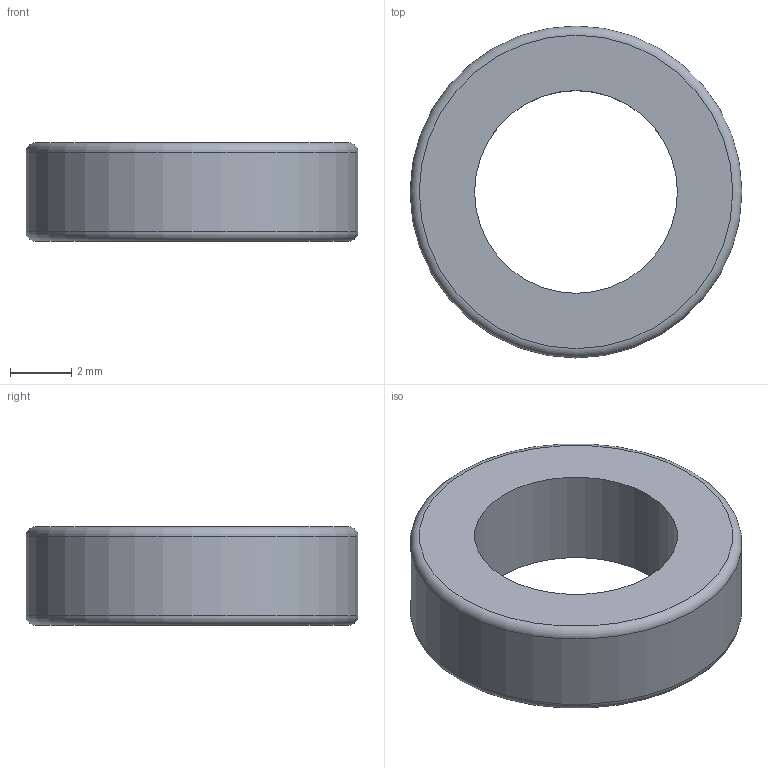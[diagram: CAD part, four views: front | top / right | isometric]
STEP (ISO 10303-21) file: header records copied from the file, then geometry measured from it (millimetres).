
FILE_DESCRIPTION(('Open CASCADE Model'),'2;1');
FILE_NAME('Open CASCADE Shape Model','2026-10-09T16:33:01',('Author'),( 'Open CASCADE'),'Open CASCADE STEP processor 8.0','build123d', 'Unknown');
FILE_SCHEMA(('AUTOMOTIVE_DESIGN { 1 0 10303 214 1 1 1 1 }'));
Length unit declared in the file: millimetre
Products named in the file (1): COMPOUND
Bounding box: 10.8 x 10.8 x 3.2 mm (x, y, z)
Volume: 182.4 mm3; surface area: 280.9 mm2
Topology: 1 solids, 1 shells, 6 faces, 10 edges, 6 vertices
Faces by surface type: cylinder 2, plane 2, torus 2
Full cylindrical faces by diameter (mm): 6.6 x1, 10.8 x1
Entity records: 290 total; most frequent: DIRECTION 52, CARTESIAN_POINT 43, ORIENTED_EDGE 20, PCURVE 20, DEFINITIONAL_REPRESENTATION 20, LINE 18, VECTOR 18, AXIS2_PLACEMENT_3D 15
